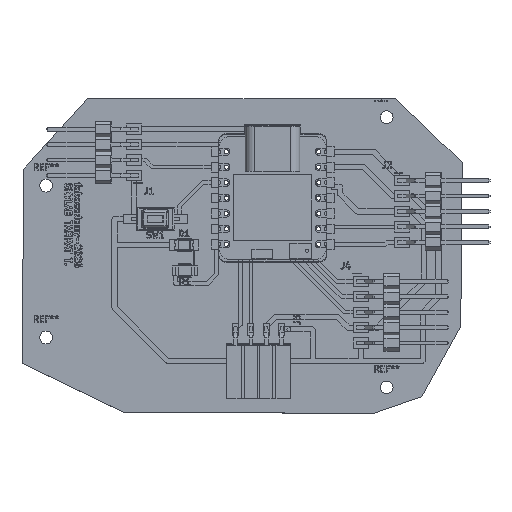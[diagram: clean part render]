
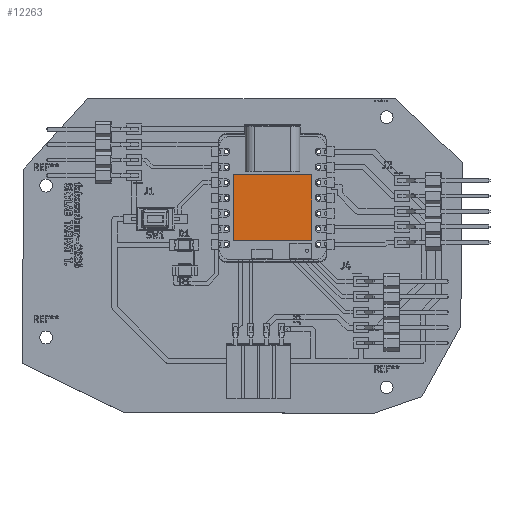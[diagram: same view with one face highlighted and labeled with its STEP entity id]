
A CAD part, top view. The second image highlights one B-rep face of the part: STEP entity #12263.
In plain terms, the highlighted planar face has unit normal (0, 0, 1).
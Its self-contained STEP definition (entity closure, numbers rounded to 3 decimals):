
#12134 = VERTEX_POINT('',#12135);
#12135 = CARTESIAN_POINT('',(-6.425,7.01,3.));
#12141 = EDGE_CURVE('',#12134,#12142,#12144,.T.);
#12142 = VERTEX_POINT('',#12143);
#12143 = CARTESIAN_POINT('',(-6.425,-3.84,3.));
#12144 = LINE('',#12145,#12146);
#12145 = CARTESIAN_POINT('',(-6.425,7.01,3.));
#12146 = VECTOR('',#12147,1.);
#12147 = DIRECTION('',(0.,-1.,0.));
#12172 = EDGE_CURVE('',#12142,#12173,#12175,.T.);
#12173 = VERTEX_POINT('',#12174);
#12174 = CARTESIAN_POINT('',(6.425,-3.84,3.));
#12175 = LINE('',#12176,#12177);
#12176 = CARTESIAN_POINT('',(-6.425,-3.84,3.));
#12177 = VECTOR('',#12178,1.);
#12178 = DIRECTION('',(1.,0.,0.));
#12203 = EDGE_CURVE('',#12173,#12204,#12206,.T.);
#12204 = VERTEX_POINT('',#12205);
#12205 = CARTESIAN_POINT('',(6.425,7.01,3.));
#12206 = LINE('',#12207,#12208);
#12207 = CARTESIAN_POINT('',(6.425,-3.84,3.));
#12208 = VECTOR('',#12209,1.);
#12209 = DIRECTION('',(0.,1.,0.));
#12234 = EDGE_CURVE('',#12204,#12134,#12235,.T.);
#12235 = LINE('',#12236,#12237);
#12236 = CARTESIAN_POINT('',(6.425,7.01,3.));
#12237 = VECTOR('',#12238,1.);
#12238 = DIRECTION('',(-1.,0.,0.));
#12263 = ADVANCED_FACE('',(#12264),#12270,.T.);
#12264 = FACE_BOUND('',#12265,.T.);
#12265 = EDGE_LOOP('',(#12266,#12267,#12268,#12269));
#12266 = ORIENTED_EDGE('',*,*,#12141,.T.);
#12267 = ORIENTED_EDGE('',*,*,#12172,.T.);
#12268 = ORIENTED_EDGE('',*,*,#12203,.T.);
#12269 = ORIENTED_EDGE('',*,*,#12234,.T.);
#12270 = PLANE('',#12271);
#12271 = AXIS2_PLACEMENT_3D('',#12272,#12273,#12274);
#12272 = CARTESIAN_POINT('',(0.,1.585,3.));
#12273 = DIRECTION('',(0.,0.,1.));
#12274 = DIRECTION('',(1.,0.,-0.));
